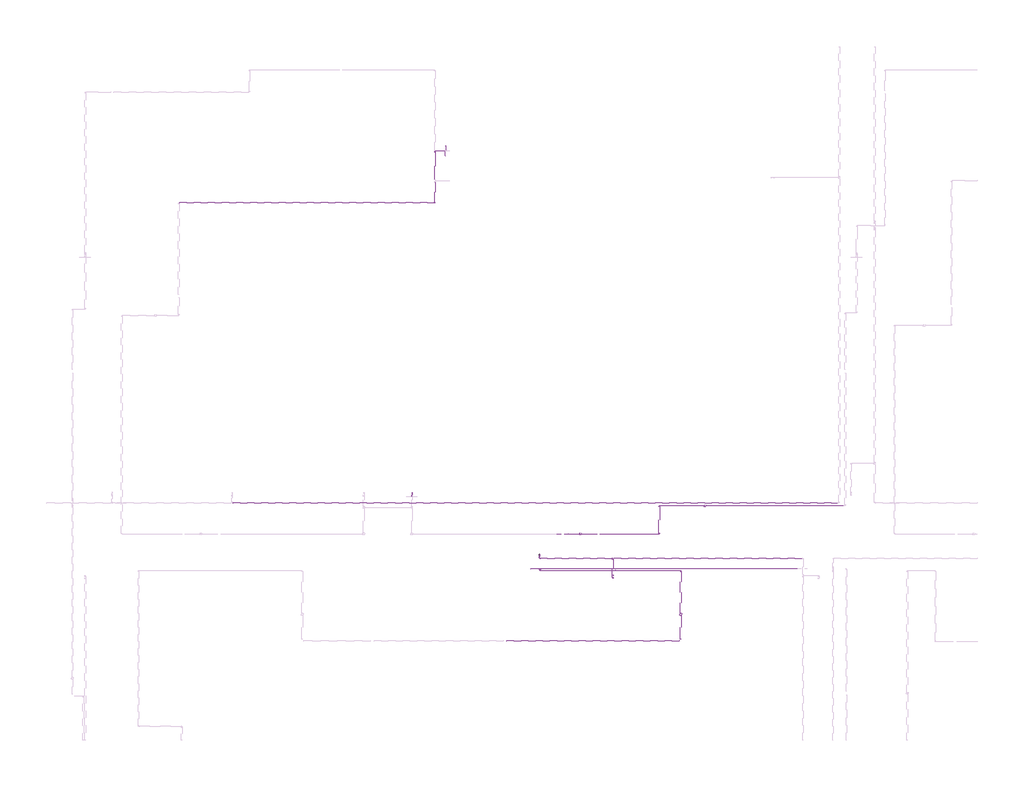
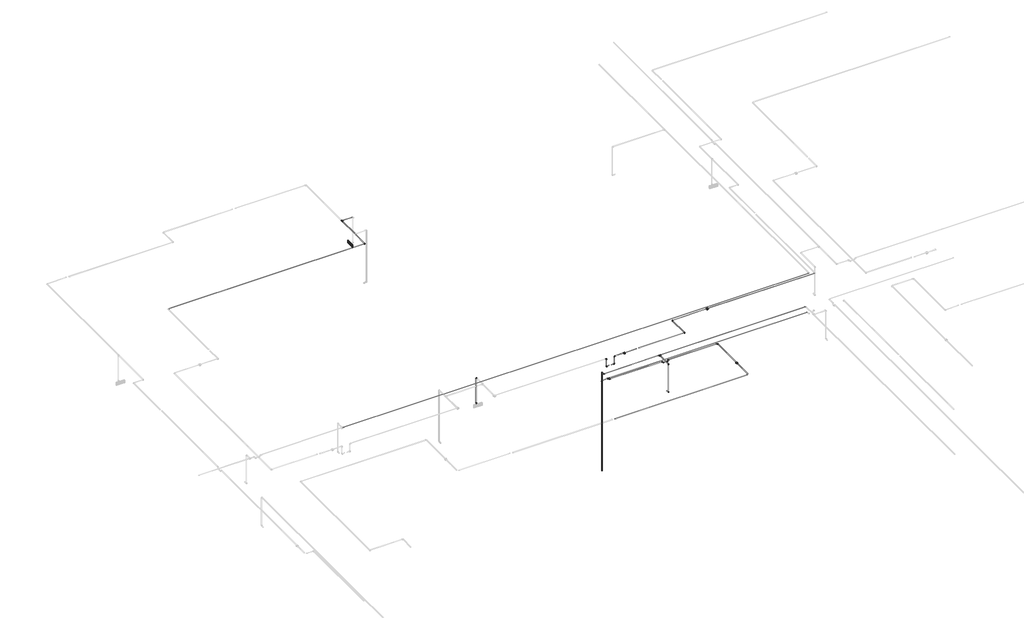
# One storey, part 6 of 13: 35 cable carrier segments, 23 cable carrier fittings, 4 alarms.
"""IFC4 building model written with IfcOpenShell, lengths in millimetres."""

from ifc_helpers import new_model, si_unit, point, frame, frame_2d, origin, place, context, project, spatial, circle_curve, trimmed, segment, composite_curve, outline, extrude, transform, mapped, element, save
from ifc_brep_helpers import plane_surface, cylinder_surface, advanced_brep
from components import alarm_4b7e8fd8, alarm_a2247946, cable_carrier_fitting_69f1a801, cable_carrier_fitting_8122f9af, cable_carrier_fitting_8fd13dfc

model = new_model("IFC4")

# Units and contexts
model_context = context("Model", 3, world=origin())
ifc_project = project(units=[si_unit("LENGTHUNIT", "METRE", prefix="MILLI")], contexts=[model_context])

# Site, building, storey
site = spatial("IfcSite", under=ifc_project)
building = spatial("IfcBuilding", under=site)
storey = spatial("IfcBuildingStorey", under=building, Name="2 этаж", Elevation=3500.0)

# Alarms
placement = place(None, origin())
alarm_shape = alarm_4b7e8fd8(model_context)
element("IfcAlarm", 1, ObjectType="RBZ_Оповещатель_Световой_Рубеж_ОПОП1-R3(грань) : ОПОП 1-R3 \"Выход\"", at=placement, inside=storey, context=model_context, shape_type="MappedRepresentation", body=[
    mapped(alarm_shape, transform((-25412.3240021, 15917.1370105, 6000.0), x_axis=(0.0, -1.0, 0.0), y_axis=(0.0, 0.0, 1.0), z_axis=(-1.0, 0.0, 0.0))),
])
alarm_2_shape = alarm_a2247946(model_context)
element("IfcAlarm", 2, ObjectType="RBZ_ИзоляторШлейфа_Рубеж_ИЗ-1_прот.R3(плоскость) : ИЗ-1 прот.R3", at=placement, inside=storey, context=model_context, shape_type="MappedRepresentation", body=[
    mapped(alarm_2_shape, transform((-18827.3240021, 2912.1370105, 6995.4), x_axis=(1.0, 0.0, 0.0), y_axis=(0.0, 1.0, 0.0), z_axis=(0.0, 0.0, 1.0))),
])
element("IfcAlarm", 3, ObjectType="RBZ_ИзоляторШлейфа_Рубеж_ИЗ-1_прот.R3(плоскость) : ИЗ-1 прот.R3", at=placement, inside=storey, context=model_context, shape_type="MappedRepresentation", body=[
    mapped(alarm_2_shape, transform((-21639.8240021, 5164.6370105, 6995.4), x_axis=(1.0, 0.0, 0.0), y_axis=(0.0, 1.0, 0.0), z_axis=(0.0, 0.0, 1.0))),
])
element("IfcAlarm", 4, ObjectType="RBZ_ИзоляторШлейфа_Рубеж_ИЗ-1_прот.R3(плоскость) : ИЗ-1 прот.R3", at=placement, inside=storey, context=model_context, shape_type="MappedRepresentation", body=[
    mapped(alarm_2_shape, transform((-18147.3240021, 5957.1532203, 6995.4), x_axis=(1.0, 0.0, 0.0), y_axis=(0.0, 1.0, 0.0), z_axis=(0.0, 0.0, 1.0))),
])

# Cable carrier fittings
cable_carrier_fitting_shape = cable_carrier_fitting_69f1a801(model_context)
element("IfcCableCarrierFitting", 5, ObjectType="ADSK_Поворот_Минимальный размер : Неспецифицируемый", at=placement, inside=storey, context=model_context, shape_type="MappedRepresentation", body=[
    mapped(cable_carrier_fitting_shape, transform((-25722.3240021, 14465.9311629, 6986.95), x_axis=(1.0, 0.0, 0.0), y_axis=(0.0, 1.0, 0.0), z_axis=(0.0, 0.0, 1.0))),
])
element("IfcCableCarrierFitting", 6, ObjectType="ADSK_Поворот_Минимальный размер : Неспецифицируемый", at=placement, inside=storey, context=model_context, shape_type="MappedRepresentation", body=[
    mapped(cable_carrier_fitting_shape, transform((-22286.0238077, 5164.6370105, 6690.0), x_axis=(-1.0, 0.0, 0.0), y_axis=(0.0, 0.0, 1.0), z_axis=(0.0, 1.0, 0.0))),
])
element("IfcCableCarrierFitting", 7, ObjectType="ADSK_Поворот_Минимальный размер : Неспецифицируемый", at=placement, inside=storey, context=model_context, shape_type="MappedRepresentation", body=[
    mapped(cable_carrier_fitting_shape, transform((-22286.0238077, 5164.6370105, 6986.95), x_axis=(0.0, 0.0, 1.0), y_axis=(-1.0, 0.0, 0.0), z_axis=(0.0, -1.0, 0.0))),
])
element("IfcCableCarrierFitting", 8, ObjectType="ADSK_Поворот_Минимальный размер : Неспецифицируемый", at=placement, inside=storey, context=model_context, shape_type="MappedRepresentation", body=[
    mapped(cable_carrier_fitting_shape, transform((-21998.6241965, 5164.6370105, 6690.0), x_axis=(1.0, 0.0, 0.0), y_axis=(0.0, 0.0, 1.0), z_axis=(0.0, -1.0, 0.0))),
])
element("IfcCableCarrierFitting", 9, ObjectType="ADSK_Поворот_Минимальный размер : Неспецифицируемый", at=placement, inside=storey, context=model_context, shape_type="MappedRepresentation", body=[
    mapped(cable_carrier_fitting_shape, transform((-21998.6241965, 5164.6370105, 6984.65), x_axis=(0.0, 0.0, 1.0), y_axis=(1.0, 0.0, 0.0), z_axis=(0.0, 1.0, 0.0))),
])
element("IfcCableCarrierFitting", 10, ObjectType="ADSK_Поворот_Минимальный размер : Неспецифицируемый", at=placement, inside=storey, context=model_context, shape_type="MappedRepresentation", body=[
    mapped(cable_carrier_fitting_shape, transform((-19428.4385967, 5164.6370105, 6984.65), x_axis=(1.0, 0.0, 0.0), y_axis=(0.0, 1.0, 0.0), z_axis=(0.0, 0.0, 1.0))),
])
element("IfcCableCarrierFitting", 11, ObjectType="ADSK_Поворот_Минимальный размер : Неспецифицируемый", at=placement, inside=storey, context=model_context, shape_type="MappedRepresentation", body=[
    mapped(cable_carrier_fitting_shape, transform((-19428.4385967, 5957.1532203, 6984.65), x_axis=(-1.0, 0.0, 0.0), y_axis=(0.0, -1.0, 0.0), z_axis=(0.0, 0.0, 1.0))),
])
element("IfcCableCarrierFitting", 12, ObjectType="ADSK_Поворот_Минимальный размер : Неспецифицируемый", at=placement, inside=storey, context=model_context, shape_type="MappedRepresentation", body=[
    mapped(cable_carrier_fitting_shape, transform((-20732.2740021, 3927.4372049, 5897.4861504), x_axis=(0.0, -1.0, 0.0), y_axis=(0.0, 0.0, 1.0), z_axis=(-1.0, 0.0, 0.0))),
])
element("IfcCableCarrierFitting", 13, ObjectType="ADSK_Поворот_Минимальный размер : Неспецифицируемый", at=placement, inside=storey, context=model_context, shape_type="MappedRepresentation", body=[
    mapped(cable_carrier_fitting_shape, transform((-20732.2740021, 3927.4372049, 6990.0), x_axis=(0.0, 0.0, 1.0), y_axis=(0.0, 1.0, 0.0), z_axis=(-1.0, 0.0, 0.0))),
])
element("IfcCableCarrierFitting", 14, ObjectType="ADSK_Поворот_Минимальный размер : Неспецифицируемый", at=placement, inside=storey, context=model_context, shape_type="MappedRepresentation", body=[
    mapped(cable_carrier_fitting_shape, transform((-26367.3240021, 6321.8368161, 6000.0), x_axis=(0.0, 1.0, 0.0), y_axis=(0.0, 0.0, 1.0), z_axis=(1.0, 0.0, 0.0))),
])
element("IfcCableCarrierFitting", 15, ObjectType="ADSK_Поворот_Минимальный размер : Неспецифицируемый", at=placement, inside=storey, context=model_context, shape_type="MappedRepresentation", body=[
    mapped(cable_carrier_fitting_shape, transform((-26367.3240021, 6321.8368161, 6986.95), x_axis=(0.0, 0.0, 1.0), y_axis=(0.0, -1.0, 0.0), z_axis=(1.0, 0.0, 0.0))),
])
element("IfcCableCarrierFitting", 16, ObjectType="ADSK_Поворот_Минимальный размер : Неспецифицируемый", at=placement, inside=storey, context=model_context, shape_type="MappedRepresentation", body=[
    mapped(cable_carrier_fitting_shape, transform((-18827.3240021, 4136.8294115, 6984.65), x_axis=(0.0, 1.0, 0.0), y_axis=(-1.0, 0.0, 0.0), z_axis=(0.0, 0.0, 1.0))),
])
element("IfcCableCarrierFitting", 17, ObjectType="ADSK_Поворот_Минимальный размер : Неспецифицируемый", at=placement, inside=storey, context=model_context, shape_type="MappedRepresentation", body=[
    mapped(cable_carrier_fitting_shape, transform((-22768.8462734, 4136.8294115, 6990.0), x_axis=(0.0, -1.0, 0.0), y_axis=(1.0, 0.0, 0.0), z_axis=(0.0, 0.0, 1.0))),
])
element("IfcCableCarrierFitting", 18, ObjectType="ADSK_Поворот_Минимальный размер : Неспецифицируемый", at=placement, inside=storey, context=model_context, shape_type="MappedRepresentation", body=[
    mapped(cable_carrier_fitting_shape, transform((-23017.3240021, 4191.0020779, 6990.0), x_axis=(-1.0, 0.0, 0.0), y_axis=(0.0, 0.0, -1.0), z_axis=(0.0, -1.0, 0.0))),
])
element("IfcCableCarrierFitting", 19, ObjectType="ADSK_Поворот_Минимальный размер : Неспецифицируемый", at=placement, inside=storey, context=model_context, shape_type="MappedRepresentation", body=[
    mapped(cable_carrier_fitting_shape, transform((-22786.859707, 4582.0798551, 6990.0), x_axis=(0.0, 0.0, 1.0), y_axis=(0.0, -1.0, 0.0), z_axis=(1.0, 0.0, 0.0))),
])
element("IfcCableCarrierFitting", 20, ObjectType="ADSK_Поворот_Минимальный размер : Неспецифицируемый", at=placement, inside=storey, context=model_context, shape_type="MappedRepresentation", body=[
    mapped(cable_carrier_fitting_shape, transform((-22786.859707, 4481.6519004, 6990.0), x_axis=(0.0, -1.0, 0.0), y_axis=(1.0, 0.0, 0.0), z_axis=(0.0, 0.0, 1.0))),
])
cable_carrier_fitting_2_shape = cable_carrier_fitting_8122f9af(model_context)
element("IfcCableCarrierFitting", 21, ObjectType="ADSK_Поворот_Минимальный размер : Неспецифицируемый", at=placement, inside=storey, context=model_context, shape_type="MappedRepresentation", body=[
    mapped(cable_carrier_fitting_2_shape, transform((-20665.7017309, 4136.8294115, 6940.0), x_axis=(-0.7071067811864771, 0.0, -0.7071067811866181), y_axis=(-0.7071067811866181, 0.0, 0.7071067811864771), z_axis=(0.0, 1.0, 0.0))),
])
element("IfcCableCarrierFitting", 22, ObjectType="ADSK_Поворот_Минимальный размер : Неспецифицируемый", at=placement, inside=storey, context=model_context, shape_type="MappedRepresentation", body=[
    mapped(cable_carrier_fitting_2_shape, transform((-20798.8462734, 4136.8294115, 6940.0), x_axis=(-1.0, 0.0, 0.0), y_axis=(0.0, 0.0, 1.0), z_axis=(0.0, 1.0, 0.0))),
])
element("IfcCableCarrierFitting", 23, ObjectType="ADSK_Поворот_Минимальный размер : Неспецифицируемый", at=placement, inside=storey, context=model_context, shape_type="MappedRepresentation", body=[
    mapped(cable_carrier_fitting_2_shape, transform((-20848.8462734, 4136.8294115, 6990.0), x_axis=(-0.7071067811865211, 0.0, 0.707106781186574), y_axis=(-0.707106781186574, 0.0, -0.7071067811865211), z_axis=(0.0, -1.0, 0.0))),
])
element("IfcCableCarrierFitting", 24, ObjectType="ADSK_Поворот_Минимальный размер : Неспецифицируемый", at=placement, inside=storey, context=model_context, shape_type="MappedRepresentation", body=[
    mapped(cable_carrier_fitting_2_shape, transform((-20621.0517309, 4136.8294115, 6984.65), x_axis=(0.7071067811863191, 0.0, 0.707106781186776), y_axis=(0.707106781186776, 0.0, -0.7071067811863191), z_axis=(0.0, 1.0, 0.0))),
])
cable_carrier_fitting_3_shape = cable_carrier_fitting_8fd13dfc(model_context)
element("IfcCableCarrierFitting", 25, ObjectType="ADSK_Тройник : ПВХ", at=placement, inside=storey, context=model_context, shape_type="MappedRepresentation", body=[
    mapped(cable_carrier_fitting_3_shape, transform((-25722.3240021, 15917.1370105, 6986.95), x_axis=(0.0, 1.0, 0.0), y_axis=(-1.0, 0.0, 0.0), z_axis=(0.0, 0.0, 1.0))),
])
element("IfcCableCarrierFitting", 26, ObjectType="ADSK_Тройник : ПВХ", at=placement, inside=storey, context=model_context, shape_type="MappedRepresentation", body=[
    mapped(cable_carrier_fitting_3_shape, transform((-20732.2740021, 4481.6519004, 6990.0), x_axis=(1.0, 0.0, 0.0), y_axis=(0.0, 1.0, 0.0), z_axis=(0.0, 0.0, 1.0))),
])
element("IfcCableCarrierFitting", 27, ObjectType="ADSK_Тройник : ПВХ", at=placement, inside=storey, context=model_context, shape_type="MappedRepresentation", body=[
    mapped(cable_carrier_fitting_3_shape, transform((-22768.8462734, 4191.0020779, 6990.0), x_axis=(1.0, 0.0, 0.0), y_axis=(0.0, 1.0, 0.0), z_axis=(0.0, 0.0, 1.0))),
])

# Cable carrier segments
element("IfcCableCarrierSegment", 28, ObjectType="Гофрированная труба", at=placement, inside=storey, context=model_context, shape_type="SweptSolid", body=[
    extrude(outline(composite_curve([segment(trimmed(circle_curve(frame_2d((0.0, 10.0)), 10.0), [point((-10.0, 10.0))], [point((0.0, 20.0000001))], False, "CARTESIAN"), True, "CONTINUOUS"), segment(trimmed(circle_curve(frame_2d((0.0, 10.0)), 10.0), [point((0.0, 20.0000001))], [point((10.0, 10.0))], False, "CARTESIAN"), True, "CONTINUOUS"), segment(trimmed(circle_curve(frame_2d((0.0, 10.0)), 10.0), [point((10.0, 10.0))], [point((0.0, 0.0))], False, "CARTESIAN"), True, "CONTINUOUS"), segment(trimmed(circle_curve(frame_2d((0.0, 10.0)), 10.0), [point((0.0, 0.0))], [point((-10.0, 10.0))], False, "CARTESIAN"), True, "CONTINUOUS")], self_intersect=False)), frame((-18873.828762, 2164.6370105, 6974.6500011), z_axis=(-0.9999998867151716, 0.0, 0.0004759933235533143), x_axis=(0.0, -1.0, 0.0)), (0.0, 0.0, 1.0), 4832.0005474),
])
element("IfcCableCarrierSegment", 29, ObjectType="Гофрированная труба", at=placement, inside=storey, context=model_context, shape_type="SweptSolid", body=[
    extrude(outline(composite_curve([segment(trimmed(circle_curve(frame_2d((6984.65, -18827.3240021)), 10.0), [point((6984.65, -18837.3240021))], [point((6974.65, -18827.3240021))], False, "CARTESIAN"), True, "CONTINUOUS"), segment(trimmed(circle_curve(frame_2d((6984.65, -18827.3240021)), 10.0), [point((6974.65, -18827.3240021))], [point((6984.65, -18817.3240021))], False, "CARTESIAN"), True, "CONTINUOUS"), segment(trimmed(circle_curve(frame_2d((6984.65, -18827.3240021)), 10.0), [point((6984.65, -18817.3240021))], [point((6994.65, -18827.3240021))], False, "CARTESIAN"), True, "CONTINUOUS"), segment(trimmed(circle_curve(frame_2d((6984.65, -18827.3240021)), 10.0), [point((6994.65, -18827.3240021))], [point((6984.65, -18837.3240021))], False, "CARTESIAN"), True, "CONTINUOUS")], self_intersect=False)), frame((0.0, 2211.1370105, 0.0), z_axis=(0.0, 1.0, 0.0), x_axis=(0.0, 0.0, 1.0)), (0.0, 0.0, 1.0), 675.0),
])
element("IfcCableCarrierSegment", 30, ObjectType="Гофрированная труба", at=placement, inside=storey, context=model_context, shape_type="SweptSolid", body=[
    extrude(outline(composite_curve([segment(trimmed(circle_curve(frame_2d((6984.65, -18827.3240021)), 10.0), [point((6984.65, -18817.3240021))], [point((6994.65, -18827.3240021))], False, "CARTESIAN"), True, "CONTINUOUS"), segment(trimmed(circle_curve(frame_2d((6984.65, -18827.3240021)), 10.0), [point((6994.65, -18827.3240021))], [point((6984.65, -18837.3240021))], False, "CARTESIAN"), True, "CONTINUOUS"), segment(trimmed(circle_curve(frame_2d((6984.65, -18827.3240021)), 10.0), [point((6984.65, -18837.3240021))], [point((6974.65, -18827.3240021))], False, "CARTESIAN"), True, "CONTINUOUS"), segment(trimmed(circle_curve(frame_2d((6984.65, -18827.3240021)), 10.0), [point((6974.65, -18827.3240021))], [point((6984.65, -18817.3240021))], False, "CARTESIAN"), True, "CONTINUOUS")], self_intersect=False)), frame((0.0, 2938.1370105, 0.0), z_axis=(0.0, 1.0, 0.0), x_axis=(0.0, 0.0, 1.0)), (0.0, 0.0, 1.0), 1177.692401),
])
element("IfcCableCarrierSegment", 31, ObjectType="Гофрированная труба", at=placement, inside=storey, context=model_context, shape_type="SweptSolid", body=[
    extrude(outline(composite_curve([segment(trimmed(circle_curve(frame_2d((4191.0020779, 6990.0)), 10.0), [point((4201.0020779, 6990.0))], [point((4191.0020779, 6980.0))], False, "CARTESIAN"), True, "CONTINUOUS"), segment(trimmed(circle_curve(frame_2d((4191.0020779, 6990.0)), 10.0), [point((4191.0020779, 6980.0))], [point((4181.0020779, 6990.0))], False, "CARTESIAN"), True, "CONTINUOUS"), segment(trimmed(circle_curve(frame_2d((4191.0020779, 6990.0)), 10.0), [point((4181.0020779, 6990.0))], [point((4191.0020779, 7000.0))], False, "CARTESIAN"), True, "CONTINUOUS"), segment(trimmed(circle_curve(frame_2d((4191.0020779, 6990.0)), 10.0), [point((4191.0020779, 7000.0))], [point((4201.0020779, 6990.0))], False, "CARTESIAN"), True, "CONTINUOUS")], self_intersect=False)), frame((-22996.3240021, 0.0, 0.0), z_axis=(1.0, 0.0, 0.0), x_axis=(0.0, 1.0, 0.0)), (0.0, 0.0, 1.0), 197.4777288),
])
element("IfcCableCarrierSegment", 32, ObjectType="Гофрированная труба", at=placement, inside=storey, context=model_context, shape_type="SweptSolid", body=[
    extrude(outline(composite_curve([segment(trimmed(circle_curve(frame_2d((6986.95, -25722.3240021)), 10.0), [point((6986.95, -25712.3240021))], [point((6996.95, -25722.3240021))], False, "CARTESIAN"), True, "CONTINUOUS"), segment(trimmed(circle_curve(frame_2d((6986.95, -25722.3240021)), 10.0), [point((6996.95, -25722.3240021))], [point((6986.95, -25732.3240021))], False, "CARTESIAN"), True, "CONTINUOUS"), segment(trimmed(circle_curve(frame_2d((6986.95, -25722.3240021)), 10.0), [point((6986.95, -25732.3240021))], [point((6976.95, -25722.3240021))], False, "CARTESIAN"), True, "CONTINUOUS"), segment(trimmed(circle_curve(frame_2d((6986.95, -25722.3240021)), 10.0), [point((6976.95, -25722.3240021))], [point((6986.95, -25712.3240021))], False, "CARTESIAN"), True, "CONTINUOUS")], self_intersect=False)), frame((0.0, 15107.1370105, 0.0), z_axis=(0.0, 1.0, 0.0), x_axis=(0.0, 0.0, 1.0)), (0.0, 0.0, 1.0), 780.0),
])
element("IfcCableCarrierSegment", 33, ObjectType="Гофрированная труба", at=placement, inside=storey, context=model_context, shape_type="SweptSolid", body=[
    extrude(outline(composite_curve([segment(trimmed(circle_curve(frame_2d((14465.9311629, 6986.95)), 10.0), [point((14455.9311629, 6986.95))], [point((14465.9311629, 6996.95))], False, "CARTESIAN"), True, "CONTINUOUS"), segment(trimmed(circle_curve(frame_2d((14465.9311629, 6986.95)), 10.0), [point((14465.9311629, 6996.95))], [point((14475.9311629, 6986.95))], False, "CARTESIAN"), True, "CONTINUOUS"), segment(trimmed(circle_curve(frame_2d((14465.9311629, 6986.95)), 10.0), [point((14475.9311629, 6986.95))], [point((14465.9311629, 6976.95))], False, "CARTESIAN"), True, "CONTINUOUS"), segment(trimmed(circle_curve(frame_2d((14465.9311629, 6986.95)), 10.0), [point((14465.9311629, 6976.95))], [point((14455.9311629, 6986.95))], False, "CARTESIAN"), True, "CONTINUOUS")], self_intersect=False)), frame((-32886.3240021, 0.0, 0.0), z_axis=(1.0, 0.0, 0.0), x_axis=(0.0, 1.0, 0.0)), (0.0, 0.0, 1.0), 7143.0),
])
element("IfcCableCarrierSegment", 34, ObjectType="Гофрированная труба", at=placement, inside=storey, context=model_context, shape_type="SweptSolid", body=[
    extrude(outline(composite_curve([segment(trimmed(circle_curve(frame_2d((5957.1532203, 6984.65)), 10.0), [point((5967.1532203, 6984.65))], [point((5957.1532203, 6974.65))], False, "CARTESIAN"), True, "CONTINUOUS"), segment(trimmed(circle_curve(frame_2d((5957.1532203, 6984.65)), 10.0), [point((5957.1532203, 6974.65))], [point((5947.1532203, 6984.65))], False, "CARTESIAN"), True, "CONTINUOUS"), segment(trimmed(circle_curve(frame_2d((5957.1532203, 6984.65)), 10.0), [point((5947.1532203, 6984.65))], [point((5957.1532203, 6994.65))], False, "CARTESIAN"), True, "CONTINUOUS"), segment(trimmed(circle_curve(frame_2d((5957.1532203, 6984.65)), 10.0), [point((5957.1532203, 6994.65))], [point((5967.1532203, 6984.65))], False, "CARTESIAN"), True, "CONTINUOUS")], self_intersect=False)), frame((-18121.3240021, 0.0, 0.0), z_axis=(1.0, 0.0, 0.0), x_axis=(0.0, 1.0, 0.0)), (0.0, 0.0, 1.0), 3888.0),
])
element("IfcCableCarrierSegment", 35, ObjectType="Гофрированная труба", at=placement, inside=storey, context=model_context, shape_type="SweptSolid", body=[
    extrude(outline(composite_curve([segment(trimmed(circle_curve(frame_2d((5164.6370105, 6690.0)), 10.0), [point((5174.6370105, 6690.0))], [point((5164.6370105, 6680.0))], False, "CARTESIAN"), True, "CONTINUOUS"), segment(trimmed(circle_curve(frame_2d((5164.6370105, 6690.0)), 10.0), [point((5164.6370105, 6680.0))], [point((5154.6370105, 6690.0))], False, "CARTESIAN"), True, "CONTINUOUS"), segment(trimmed(circle_curve(frame_2d((5164.6370105, 6690.0)), 10.0), [point((5154.6370105, 6690.0))], [point((5164.6370105, 6700.0))], False, "CARTESIAN"), True, "CONTINUOUS"), segment(trimmed(circle_curve(frame_2d((5164.6370105, 6690.0)), 10.0), [point((5164.6370105, 6700.0))], [point((5174.6370105, 6690.0))], False, "CARTESIAN"), True, "CONTINUOUS")], self_intersect=False)), frame((-22265.0238077, 0.0, 0.0), z_axis=(1.0, 0.0, 0.0), x_axis=(0.0, 1.0, 0.0)), (0.0, 0.0, 1.0), 76.1998056),
])
element("IfcCableCarrierSegment", 36, ObjectType="Гофрированная труба", at=placement, inside=storey, context=model_context, shape_type="SweptSolid", body=[
    extrude(outline(composite_curve([segment(trimmed(circle_curve(frame_2d((-22286.0238077, 5164.6370105)), 10.0), [point((-22296.0238077, 5164.6370105))], [point((-22286.0238077, 5174.6370105))], False, "CARTESIAN"), True, "CONTINUOUS"), segment(trimmed(circle_curve(frame_2d((-22286.0238077, 5164.6370105)), 10.0), [point((-22286.0238077, 5174.6370105))], [point((-22276.0238077, 5164.6370105))], False, "CARTESIAN"), True, "CONTINUOUS"), segment(trimmed(circle_curve(frame_2d((-22286.0238077, 5164.6370105)), 10.0), [point((-22276.0238077, 5164.6370105))], [point((-22286.0238077, 5154.6370105))], False, "CARTESIAN"), True, "CONTINUOUS"), segment(trimmed(circle_curve(frame_2d((-22286.0238077, 5164.6370105)), 10.0), [point((-22286.0238077, 5154.6370105))], [point((-22296.0238077, 5164.6370105))], False, "CARTESIAN"), True, "CONTINUOUS")], self_intersect=False)), frame((0.0, 0.0, 6711.0), z_axis=(0.0, 0.0, 1.0), x_axis=(1.0, 0.0, 0.0)), (0.0, 0.0, 1.0), 254.95),
])
element("IfcCableCarrierSegment", 37, ObjectType="Гофрированная труба", at=placement, inside=storey, context=model_context, shape_type="SweptSolid", body=[
    extrude(outline(composite_curve([segment(trimmed(circle_curve(frame_2d((5164.6370105, 6984.65)), 10.0), [point((5174.6370105, 6984.65))], [point((5164.6370105, 6974.65))], False, "CARTESIAN"), True, "CONTINUOUS"), segment(trimmed(circle_curve(frame_2d((5164.6370105, 6984.65)), 10.0), [point((5164.6370105, 6974.65))], [point((5154.6370105, 6984.65))], False, "CARTESIAN"), True, "CONTINUOUS"), segment(trimmed(circle_curve(frame_2d((5164.6370105, 6984.65)), 10.0), [point((5154.6370105, 6984.65))], [point((5164.6370105, 6994.65))], False, "CARTESIAN"), True, "CONTINUOUS"), segment(trimmed(circle_curve(frame_2d((5164.6370105, 6984.65)), 10.0), [point((5164.6370105, 6994.65))], [point((5174.6370105, 6984.65))], False, "CARTESIAN"), True, "CONTINUOUS")], self_intersect=False)), frame((-21977.6241965, 0.0, 0.0), z_axis=(1.0, 0.0, 0.0), x_axis=(0.0, 1.0, 0.0)), (0.0, 0.0, 1.0), 311.8001944),
])
element("IfcCableCarrierSegment", 38, ObjectType="Гофрированная труба", at=placement, inside=storey, context=model_context, shape_type="SweptSolid", body=[
    extrude(outline(composite_curve([segment(trimmed(circle_curve(frame_2d((5164.6370105, 6690.0)), 10.0), [point((5154.6370105, 6690.0))], [point((5164.6370105, 6700.0))], False, "CARTESIAN"), True, "CONTINUOUS"), segment(trimmed(circle_curve(frame_2d((5164.6370105, 6690.0)), 10.0), [point((5164.6370105, 6700.0))], [point((5174.6370105, 6690.0))], False, "CARTESIAN"), True, "CONTINUOUS"), segment(trimmed(circle_curve(frame_2d((5164.6370105, 6690.0)), 10.0), [point((5174.6370105, 6690.0))], [point((5164.6370105, 6680.0))], False, "CARTESIAN"), True, "CONTINUOUS"), segment(trimmed(circle_curve(frame_2d((5164.6370105, 6690.0)), 10.0), [point((5164.6370105, 6680.0))], [point((5154.6370105, 6690.0))], False, "CARTESIAN"), True, "CONTINUOUS")], self_intersect=False)), frame((-22095.8240021, 0.0, 0.0), z_axis=(1.0, 0.0, 0.0), x_axis=(0.0, 1.0, 0.0)), (0.0, 0.0, 1.0), 76.1998056),
])
element("IfcCableCarrierSegment", 39, ObjectType="Гофрированная труба", at=placement, inside=storey, context=model_context, shape_type="SweptSolid", body=[
    extrude(outline(composite_curve([segment(trimmed(circle_curve(frame_2d((-21998.6241965, 5164.6370105)), 10.0), [point((-22008.6241965, 5164.6370105))], [point((-21998.6241965, 5174.6370105))], False, "CARTESIAN"), True, "CONTINUOUS"), segment(trimmed(circle_curve(frame_2d((-21998.6241965, 5164.6370105)), 10.0), [point((-21998.6241965, 5174.6370105))], [point((-21988.6241965, 5164.6370105))], False, "CARTESIAN"), True, "CONTINUOUS"), segment(trimmed(circle_curve(frame_2d((-21998.6241965, 5164.6370105)), 10.0), [point((-21988.6241965, 5164.6370105))], [point((-21998.6241965, 5154.6370105))], False, "CARTESIAN"), True, "CONTINUOUS"), segment(trimmed(circle_curve(frame_2d((-21998.6241965, 5164.6370105)), 10.0), [point((-21998.6241965, 5154.6370105))], [point((-22008.6241965, 5164.6370105))], False, "CARTESIAN"), True, "CONTINUOUS")], self_intersect=False)), frame((0.0, 0.0, 6711.0), z_axis=(0.0, 0.0, 1.0), x_axis=(1.0, 0.0, 0.0)), (0.0, 0.0, 1.0), 252.65),
])
element("IfcCableCarrierSegment", 40, ObjectType="Гофрированная труба", at=placement, inside=storey, context=model_context, shape_type="SweptSolid", body=[
    extrude(outline(composite_curve([segment(trimmed(circle_curve(frame_2d((5164.6370105, 6984.65)), 10.0), [point((5174.6370105, 6984.65))], [point((5164.6370105, 6974.65))], False, "CARTESIAN"), True, "CONTINUOUS"), segment(trimmed(circle_curve(frame_2d((5164.6370105, 6984.65)), 10.0), [point((5164.6370105, 6974.65))], [point((5154.6370105, 6984.65))], False, "CARTESIAN"), True, "CONTINUOUS"), segment(trimmed(circle_curve(frame_2d((5164.6370105, 6984.65)), 10.0), [point((5154.6370105, 6984.65))], [point((5164.6370105, 6994.65))], False, "CARTESIAN"), True, "CONTINUOUS"), segment(trimmed(circle_curve(frame_2d((5164.6370105, 6984.65)), 10.0), [point((5164.6370105, 6994.65))], [point((5174.6370105, 6984.65))], False, "CARTESIAN"), True, "CONTINUOUS")], self_intersect=False)), frame((-21613.8240021, 0.0, 0.0), z_axis=(1.0, 0.0, 0.0), x_axis=(0.0, 1.0, 0.0)), (0.0, 0.0, 1.0), 425.8437312),
])
element("IfcCableCarrierSegment", 41, ObjectType="Гофрированная труба", at=placement, inside=storey, context=model_context, shape_type="SweptSolid", body=[
    extrude(outline(composite_curve([segment(trimmed(circle_curve(frame_2d((5164.6370105, 6984.65)), 10.0), [point((5174.6370105, 6984.65))], [point((5164.6370105, 6974.65))], False, "CARTESIAN"), True, "CONTINUOUS"), segment(trimmed(circle_curve(frame_2d((5164.6370105, 6984.65)), 10.0), [point((5164.6370105, 6974.65))], [point((5154.6370105, 6984.65))], False, "CARTESIAN"), True, "CONTINUOUS"), segment(trimmed(circle_curve(frame_2d((5164.6370105, 6984.65)), 10.0), [point((5154.6370105, 6984.65))], [point((5164.6370105, 6994.65))], False, "CARTESIAN"), True, "CONTINUOUS"), segment(trimmed(circle_curve(frame_2d((5164.6370105, 6984.65)), 10.0), [point((5164.6370105, 6994.65))], [point((5174.6370105, 6984.65))], False, "CARTESIAN"), True, "CONTINUOUS")], self_intersect=False)), frame((-21094.9802709, 0.0, 0.0), z_axis=(1.0, 0.0, 0.0), x_axis=(0.0, 1.0, 0.0)), (0.0, 0.0, 1.0), 1645.5416742),
])
element("IfcCableCarrierSegment", 42, ObjectType="Гофрированная труба", at=placement, inside=storey, context=model_context, shape_type="SweptSolid", body=[
    extrude(outline(composite_curve([segment(trimmed(circle_curve(frame_2d((6984.65, -19428.4385967)), 10.0), [point((6984.65, -19438.4385967))], [point((6974.65, -19428.4385967))], False, "CARTESIAN"), True, "CONTINUOUS"), segment(trimmed(circle_curve(frame_2d((6984.65, -19428.4385967)), 10.0), [point((6974.65, -19428.4385967))], [point((6984.65, -19418.4385967))], False, "CARTESIAN"), True, "CONTINUOUS"), segment(trimmed(circle_curve(frame_2d((6984.65, -19428.4385967)), 10.0), [point((6984.65, -19418.4385967))], [point((6994.65, -19428.4385967))], False, "CARTESIAN"), True, "CONTINUOUS"), segment(trimmed(circle_curve(frame_2d((6984.65, -19428.4385967)), 10.0), [point((6994.65, -19428.4385967))], [point((6984.65, -19438.4385967))], False, "CARTESIAN"), True, "CONTINUOUS")], self_intersect=False)), frame((0.0, 5185.6370105, 0.0), z_axis=(0.0, 1.0, 0.0), x_axis=(0.0, 0.0, 1.0)), (0.0, 0.0, 1.0), 750.5162098),
])
element("IfcCableCarrierSegment", 43, ObjectType="Гофрированная труба", at=placement, inside=storey, context=model_context, shape_type="SweptSolid", body=[
    extrude(outline(composite_curve([segment(trimmed(circle_curve(frame_2d((5957.1532203, 6984.65)), 10.0), [point((5947.1532203, 6984.65))], [point((5957.1532203, 6994.65))], False, "CARTESIAN"), True, "CONTINUOUS"), segment(trimmed(circle_curve(frame_2d((5957.1532203, 6984.65)), 10.0), [point((5957.1532203, 6994.65))], [point((5967.1532203, 6984.65))], False, "CARTESIAN"), True, "CONTINUOUS"), segment(trimmed(circle_curve(frame_2d((5957.1532203, 6984.65)), 10.0), [point((5967.1532203, 6984.65))], [point((5957.1532203, 6974.65))], False, "CARTESIAN"), True, "CONTINUOUS"), segment(trimmed(circle_curve(frame_2d((5957.1532203, 6984.65)), 10.0), [point((5957.1532203, 6974.65))], [point((5947.1532203, 6984.65))], False, "CARTESIAN"), True, "CONTINUOUS")], self_intersect=False)), frame((-19407.4385967, 0.0, 0.0), z_axis=(1.0, 0.0, 0.0), x_axis=(0.0, 1.0, 0.0)), (0.0, 0.0, 1.0), 1234.1145946),
])
element("IfcCableCarrierSegment", 44, ObjectType="Гофрированная труба", at=placement, inside=storey, context=model_context, shape_type="SweptSolid", body=[
    extrude(outline(composite_curve([segment(trimmed(circle_curve(frame_2d((4136.8294115, 6940.0)), 10.0), [point((4146.8294115, 6940.0))], [point((4136.8294115, 6930.0))], False, "CARTESIAN"), True, "CONTINUOUS"), segment(trimmed(circle_curve(frame_2d((4136.8294115, 6940.0)), 10.0), [point((4136.8294115, 6930.0))], [point((4126.8294115, 6940.0))], False, "CARTESIAN"), True, "CONTINUOUS"), segment(trimmed(circle_curve(frame_2d((4136.8294115, 6940.0)), 10.0), [point((4126.8294115, 6940.0))], [point((4136.8294115, 6950.0))], False, "CARTESIAN"), True, "CONTINUOUS"), segment(trimmed(circle_curve(frame_2d((4136.8294115, 6940.0)), 10.0), [point((4136.8294115, 6950.0))], [point((4146.8294115, 6940.0))], False, "CARTESIAN"), True, "CONTINUOUS")], self_intersect=False)), frame((-20789.5620021, 0.0, 0.0), z_axis=(1.0, 0.0, 0.0), x_axis=(0.0, 1.0, 0.0)), (0.0, 0.0, 1.0), 114.576),
])
element("IfcCableCarrierSegment", 45, ObjectType="Гофрированная труба", at=placement, inside=storey, context=model_context, shape_type="SweptSolid", body=[
    extrude(outline(composite_curve([segment(trimmed(circle_curve(frame_2d((6037.6221207, 6990.0)), 10.0), [point((6027.6221207, 6990.0))], [point((6037.6221207, 7000.0))], False, "CARTESIAN"), True, "CONTINUOUS"), segment(trimmed(circle_curve(frame_2d((6037.6221207, 6990.0)), 10.0), [point((6037.6221207, 7000.0))], [point((6047.6221207, 6990.0))], False, "CARTESIAN"), True, "CONTINUOUS"), segment(trimmed(circle_curve(frame_2d((6037.6221207, 6990.0)), 10.0), [point((6047.6221207, 6990.0))], [point((6037.6221207, 6980.0))], False, "CARTESIAN"), True, "CONTINUOUS"), segment(trimmed(circle_curve(frame_2d((6037.6221207, 6990.0)), 10.0), [point((6037.6221207, 6980.0))], [point((6027.6221207, 6990.0))], False, "CARTESIAN"), True, "CONTINUOUS")], self_intersect=False)), frame((-31382.3240021, 0.0, 0.0), z_axis=(1.0, 0.0, 0.0), x_axis=(0.0, 1.0, 0.0)), (0.0, 0.0, 1.0), 16979.0),
])
element("IfcCableCarrierSegment", 46, ObjectType="Гофрированная труба", at=placement, inside=storey, context=model_context, shape_type="SweptSolid", body=[
    extrude(outline(composite_curve([segment(trimmed(circle_curve(frame_2d((4481.6519004, 6990.0)), 10.0), [point((4471.6519004, 6990.0))], [point((4481.6519004, 7000.0))], False, "CARTESIAN"), True, "CONTINUOUS"), segment(trimmed(circle_curve(frame_2d((4481.6519004, 6990.0)), 10.0), [point((4481.6519004, 7000.0))], [point((4491.6519004, 6990.0))], False, "CARTESIAN"), True, "CONTINUOUS"), segment(trimmed(circle_curve(frame_2d((4481.6519004, 6990.0)), 10.0), [point((4491.6519004, 6990.0))], [point((4481.6519004, 6980.0))], False, "CARTESIAN"), True, "CONTINUOUS"), segment(trimmed(circle_curve(frame_2d((4481.6519004, 6990.0)), 10.0), [point((4481.6519004, 6980.0))], [point((4471.6519004, 6990.0))], False, "CARTESIAN"), True, "CONTINUOUS")], self_intersect=False)), frame((-22765.859707, 0.0, 0.0), z_axis=(1.0, 0.0, 0.0), x_axis=(0.0, 1.0, 0.0)), (0.0, 0.0, 1.0), 2003.5857049),
])
element("IfcCableCarrierSegment", 47, ObjectType="Гофрированная труба", at=placement, inside=storey, context=model_context, shape_type="SweptSolid", body=[
    extrude(outline(composite_curve([segment(trimmed(circle_curve(frame_2d((6990.0, -20732.2740021)), 10.0), [point((6990.0, -20742.2740021))], [point((6980.0, -20732.2740021))], False, "CARTESIAN"), True, "CONTINUOUS"), segment(trimmed(circle_curve(frame_2d((6990.0, -20732.2740021)), 10.0), [point((6980.0, -20732.2740021))], [point((6990.0, -20722.2740021))], False, "CARTESIAN"), True, "CONTINUOUS"), segment(trimmed(circle_curve(frame_2d((6990.0, -20732.2740021)), 10.0), [point((6990.0, -20722.2740021))], [point((7000.0, -20732.2740021))], False, "CARTESIAN"), True, "CONTINUOUS"), segment(trimmed(circle_curve(frame_2d((6990.0, -20732.2740021)), 10.0), [point((7000.0, -20732.2740021))], [point((6990.0, -20742.2740021))], False, "CARTESIAN"), True, "CONTINUOUS")], self_intersect=False)), frame((0.0, 3948.4372049, 0.0), z_axis=(0.0, 1.0, 0.0), x_axis=(0.0, 0.0, 1.0)), (0.0, 0.0, 1.0), 503.2146954),
])
element("IfcCableCarrierSegment", 48, ObjectType="Гофрированная труба", at=placement, inside=storey, context=model_context, shape_type="SweptSolid", body=[
    extrude(outline(composite_curve([segment(trimmed(circle_curve(frame_2d((5897.4861504, -20732.2740021)), 10.0), [point((5897.4861504, -20742.2740021))], [point((5887.4861504, -20732.2740021))], False, "CARTESIAN"), True, "CONTINUOUS"), segment(trimmed(circle_curve(frame_2d((5897.4861504, -20732.2740021)), 10.0), [point((5887.4861504, -20732.2740021))], [point((5897.4861504, -20722.2740021))], False, "CARTESIAN"), True, "CONTINUOUS"), segment(trimmed(circle_curve(frame_2d((5897.4861504, -20732.2740021)), 10.0), [point((5897.4861504, -20722.2740021))], [point((5907.4861504, -20732.2740021))], False, "CARTESIAN"), True, "CONTINUOUS"), segment(trimmed(circle_curve(frame_2d((5897.4861504, -20732.2740021)), 10.0), [point((5907.4861504, -20732.2740021))], [point((5897.4861504, -20742.2740021))], False, "CARTESIAN"), True, "CONTINUOUS")], self_intersect=False)), frame((0.0, 3948.4372049, 0.0), z_axis=(0.0, 1.0, 0.0), x_axis=(0.0, 0.0, 1.0)), (0.0, 0.0, 1.0), 76.1998056),
])
element("IfcCableCarrierSegment", 49, ObjectType="Гофрированная труба", at=placement, inside=storey, context=model_context, shape_type="SweptSolid", body=[
    extrude(outline(composite_curve([segment(trimmed(circle_curve(frame_2d((-20732.2740021, 3927.4372049)), 10.0), [point((-20742.2740021, 3927.4372049))], [point((-20732.2740021, 3937.4372049))], False, "CARTESIAN"), True, "CONTINUOUS"), segment(trimmed(circle_curve(frame_2d((-20732.2740021, 3927.4372049)), 10.0), [point((-20732.2740021, 3937.4372049))], [point((-20722.2740021, 3927.4372049))], False, "CARTESIAN"), True, "CONTINUOUS"), segment(trimmed(circle_curve(frame_2d((-20732.2740021, 3927.4372049)), 10.0), [point((-20722.2740021, 3927.4372049))], [point((-20732.2740021, 3917.4372049))], False, "CARTESIAN"), True, "CONTINUOUS"), segment(trimmed(circle_curve(frame_2d((-20732.2740021, 3927.4372049)), 10.0), [point((-20732.2740021, 3917.4372049))], [point((-20742.2740021, 3927.4372049))], False, "CARTESIAN"), True, "CONTINUOUS")], self_intersect=False)), frame((0.0, 0.0, 5918.4861504), z_axis=(0.0, 0.0, 1.0), x_axis=(1.0, 0.0, 0.0)), (0.0, 0.0, 1.0), 1050.5138496),
])
element("IfcCableCarrierSegment", 50, ObjectType="Гофрированная труба", at=placement, inside=storey, context=model_context, shape_type="SweptSolid", body=[
    extrude(outline(composite_curve([segment(trimmed(circle_curve(frame_2d((4481.6519004, 6990.0)), 10.0), [point((4491.6519004, 6990.0))], [point((4481.6519004, 6980.0))], False, "CARTESIAN"), True, "CONTINUOUS"), segment(trimmed(circle_curve(frame_2d((4481.6519004, 6990.0)), 10.0), [point((4481.6519004, 6980.0))], [point((4471.6519004, 6990.0))], False, "CARTESIAN"), True, "CONTINUOUS"), segment(trimmed(circle_curve(frame_2d((4481.6519004, 6990.0)), 10.0), [point((4471.6519004, 6990.0))], [point((4481.6519004, 7000.0))], False, "CARTESIAN"), True, "CONTINUOUS"), segment(trimmed(circle_curve(frame_2d((4481.6519004, 6990.0)), 10.0), [point((4481.6519004, 7000.0))], [point((4491.6519004, 6990.0))], False, "CARTESIAN"), True, "CONTINUOUS")], self_intersect=False)), frame((-20702.2740021, 0.0, 0.0), z_axis=(1.0, 0.0, 0.0), x_axis=(0.0, 1.0, 0.0)), (0.0, 0.0, 1.0), 5283.95),
])
element("IfcCableCarrierSegment", 51, ObjectType="Гофрированная труба", at=placement, inside=storey, context=model_context, shape_type="SweptSolid", body=[
    extrude(outline(composite_curve([segment(trimmed(circle_curve(frame_2d((4136.8294115, 6984.65)), 10.0), [point((4146.8294115, 6984.65))], [point((4136.8294115, 6974.65))], False, "CARTESIAN"), True, "CONTINUOUS"), segment(trimmed(circle_curve(frame_2d((4136.8294115, 6984.65)), 10.0), [point((4136.8294115, 6974.65))], [point((4126.8294115, 6984.65))], False, "CARTESIAN"), True, "CONTINUOUS"), segment(trimmed(circle_curve(frame_2d((4136.8294115, 6984.65)), 10.0), [point((4126.8294115, 6984.65))], [point((4136.8294115, 6994.65))], False, "CARTESIAN"), True, "CONTINUOUS"), segment(trimmed(circle_curve(frame_2d((4136.8294115, 6984.65)), 10.0), [point((4136.8294115, 6994.65))], [point((4146.8294115, 6984.65))], False, "CARTESIAN"), True, "CONTINUOUS")], self_intersect=False)), frame((-20611.7674596, 0.0, 0.0), z_axis=(1.0, 0.0, 0.0), x_axis=(0.0, 1.0, 0.0)), (0.0, 0.0, 1.0), 1763.4434575),
])
element("IfcCableCarrierSegment", 52, ObjectType="Гофрированная труба", at=placement, inside=storey, context=model_context, shape_type="SweptSolid", body=[
    extrude(outline(composite_curve([segment(trimmed(circle_curve(frame_2d((0.0, -10.0)), 10.0), [point((0.0, 0.0))], [point((10.0000001, -10.0))], False, "CARTESIAN"), True, "CONTINUOUS"), segment(trimmed(circle_curve(frame_2d((0.0, -10.0)), 10.0), [point((10.0000001, -10.0))], [point((0.0, -20.0))], False, "CARTESIAN"), True, "CONTINUOUS"), segment(trimmed(circle_curve(frame_2d((0.0, -10.0)), 10.0), [point((0.0, -20.0))], [point((-10.0, -10.0))], False, "CARTESIAN"), True, "CONTINUOUS"), segment(trimmed(circle_curve(frame_2d((0.0, -10.0)), 10.0), [point((-10.0, -10.0))], [point((0.0, 0.0))], False, "CARTESIAN"), True, "CONTINUOUS")], self_intersect=False)), frame((-20659.1367597, 4146.8294115, 6946.5649712), z_axis=(0.7071067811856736, 0.0, 0.7071067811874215), x_axis=(0.7071067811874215, 0.0, -0.7071067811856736)), (0.0, 0.0, 1.0), 44.5760931),
])
element("IfcCableCarrierSegment", 53, ObjectType="Гофрированная труба", at=placement, inside=storey, context=model_context, shape_type="SweptSolid", body=[
    extrude(outline(composite_curve([segment(trimmed(circle_curve(frame_2d((4136.8294115, 6990.0)), 10.0), [point((4146.8294115, 6990.0))], [point((4136.8294115, 6980.0))], False, "CARTESIAN"), True, "CONTINUOUS"), segment(trimmed(circle_curve(frame_2d((4136.8294115, 6990.0)), 10.0), [point((4136.8294115, 6980.0))], [point((4126.8294115, 6990.0))], False, "CARTESIAN"), True, "CONTINUOUS"), segment(trimmed(circle_curve(frame_2d((4136.8294115, 6990.0)), 10.0), [point((4126.8294115, 6990.0))], [point((4136.8294115, 7000.0))], False, "CARTESIAN"), True, "CONTINUOUS"), segment(trimmed(circle_curve(frame_2d((4136.8294115, 6990.0)), 10.0), [point((4136.8294115, 7000.0))], [point((4146.8294115, 6990.0))], False, "CARTESIAN"), True, "CONTINUOUS")], self_intersect=False)), frame((-22747.8462734, 0.0, 0.0), z_axis=(1.0, 0.0, 0.0), x_axis=(0.0, 1.0, 0.0)), (0.0, 0.0, 1.0), 1889.7157288),
])
element("IfcCableCarrierSegment", 54, ObjectType="Гофрированная труба", at=placement, inside=storey, context=model_context, shape_type="SweptSolid", body=[
    extrude(outline(composite_curve([segment(trimmed(circle_curve(frame_2d((0.0, 10.0)), 10.0), [point((0.0, 20.0))], [point((10.0, 10.0))], False, "CARTESIAN"), True, "CONTINUOUS"), segment(trimmed(circle_curve(frame_2d((0.0, 10.0)), 10.0), [point((10.0, 10.0))], [point((0.0, 0.0))], False, "CARTESIAN"), True, "CONTINUOUS"), segment(trimmed(circle_curve(frame_2d((0.0, 10.0)), 10.0), [point((0.0, 0.0))], [point((-10.0000001, 10.0))], False, "CARTESIAN"), True, "CONTINUOUS"), segment(trimmed(circle_curve(frame_2d((0.0, 10.0)), 10.0), [point((-10.0000001, 10.0))], [point((0.0, 20.0))], False, "CARTESIAN"), True, "CONTINUOUS")], self_intersect=False)), frame((-20805.4112445, 4126.8294115, 6946.5649712), z_axis=(-0.7071067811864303, 0.0, 0.7071067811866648), x_axis=(0.7071067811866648, 0.0, 0.7071067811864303)), (0.0, 0.0, 1.0), 52.1421356),
])
element("IfcCableCarrierSegment", 55, ObjectType="Гофрированная труба", at=placement, inside=storey, context=model_context, shape_type="SweptSolid", body=[
    extrude(outline(composite_curve([segment(trimmed(circle_curve(frame_2d((6000.0, -26367.3240021)), 10.0), [point((6000.0, -26357.3240021))], [point((6010.0, -26367.3240021))], False, "CARTESIAN"), True, "CONTINUOUS"), segment(trimmed(circle_curve(frame_2d((6000.0, -26367.3240021)), 10.0), [point((6010.0, -26367.3240021))], [point((6000.0, -26377.3240021))], False, "CARTESIAN"), True, "CONTINUOUS"), segment(trimmed(circle_curve(frame_2d((6000.0, -26367.3240021)), 10.0), [point((6000.0, -26377.3240021))], [point((5990.0, -26367.3240021))], False, "CARTESIAN"), True, "CONTINUOUS"), segment(trimmed(circle_curve(frame_2d((6000.0, -26367.3240021)), 10.0), [point((5990.0, -26367.3240021))], [point((6000.0, -26357.3240021))], False, "CARTESIAN"), True, "CONTINUOUS")], self_intersect=False)), frame((0.0, 6224.6370105, 0.0), z_axis=(0.0, 1.0, 0.0), x_axis=(0.0, 0.0, 1.0)), (0.0, 0.0, 1.0), 76.1998056),
])
element("IfcCableCarrierSegment", 56, ObjectType="Гофрированная труба", at=placement, inside=storey, context=model_context, shape_type="SweptSolid", body=[
    extrude(outline(composite_curve([segment(trimmed(circle_curve(frame_2d((-26367.3240021, 6321.8368161)), 10.0), [point((-26377.3240021, 6321.8368161))], [point((-26367.3240021, 6331.8368161))], False, "CARTESIAN"), True, "CONTINUOUS"), segment(trimmed(circle_curve(frame_2d((-26367.3240021, 6321.8368161)), 10.0), [point((-26367.3240021, 6331.8368161))], [point((-26357.3240021, 6321.8368161))], False, "CARTESIAN"), True, "CONTINUOUS"), segment(trimmed(circle_curve(frame_2d((-26367.3240021, 6321.8368161)), 10.0), [point((-26357.3240021, 6321.8368161))], [point((-26367.3240021, 6311.8368161))], False, "CARTESIAN"), True, "CONTINUOUS"), segment(trimmed(circle_curve(frame_2d((-26367.3240021, 6321.8368161)), 10.0), [point((-26367.3240021, 6311.8368161))], [point((-26377.3240021, 6321.8368161))], False, "CARTESIAN"), True, "CONTINUOUS")], self_intersect=False)), frame((0.0, 0.0, 6021.0), z_axis=(0.0, 0.0, 1.0), x_axis=(1.0, 0.0, 0.0)), (0.0, 0.0, 1.0), 944.95),
])
element("IfcCableCarrierSegment", 57, ObjectType="Гофрированная труба", at=placement, inside=storey, context=model_context, shape_type="SweptSolid", body=[
    extrude(outline(composite_curve([segment(trimmed(circle_curve(frame_2d((15917.1370105, 6986.95)), 10.0), [point((15907.1370105, 6986.95))], [point((15917.1370105, 6996.95))], False, "CARTESIAN"), True, "CONTINUOUS"), segment(trimmed(circle_curve(frame_2d((15917.1370105, 6986.95)), 10.0), [point((15917.1370105, 6996.95))], [point((15927.1370105, 6986.95))], False, "CARTESIAN"), True, "CONTINUOUS"), segment(trimmed(circle_curve(frame_2d((15917.1370105, 6986.95)), 10.0), [point((15927.1370105, 6986.95))], [point((15917.1370105, 6976.95))], False, "CARTESIAN"), True, "CONTINUOUS"), segment(trimmed(circle_curve(frame_2d((15917.1370105, 6986.95)), 10.0), [point((15917.1370105, 6976.95))], [point((15907.1370105, 6986.95))], False, "CARTESIAN"), True, "CONTINUOUS")], self_intersect=False)), frame((-25692.3240021, 0.0, 0.0), z_axis=(1.0, 0.0, 0.0), x_axis=(0.0, 1.0, 0.0)), (0.0, 0.0, 1.0), 356.1998056),
])
element("IfcCableCarrierSegment", 58, ObjectType="Гофрированная труба", at=placement, inside=storey, context=model_context, shape_type="SweptSolid", body=[
    extrude(outline(composite_curve([segment(trimmed(circle_curve(frame_2d((6986.95, -25722.3240021)), 10.0), [point((6986.95, -25712.3240021))], [point((6996.95, -25722.3240021))], False, "CARTESIAN"), True, "CONTINUOUS"), segment(trimmed(circle_curve(frame_2d((6986.95, -25722.3240021)), 10.0), [point((6996.95, -25722.3240021))], [point((6986.95, -25732.3240021))], False, "CARTESIAN"), True, "CONTINUOUS"), segment(trimmed(circle_curve(frame_2d((6986.95, -25722.3240021)), 10.0), [point((6986.95, -25732.3240021))], [point((6976.95, -25722.3240021))], False, "CARTESIAN"), True, "CONTINUOUS"), segment(trimmed(circle_curve(frame_2d((6986.95, -25722.3240021)), 10.0), [point((6976.95, -25722.3240021))], [point((6986.95, -25712.3240021))], False, "CARTESIAN"), True, "CONTINUOUS")], self_intersect=False)), frame((0.0, 14486.9311629, 0.0), z_axis=(0.0, 1.0, 0.0), x_axis=(0.0, 0.0, 1.0)), (0.0, 0.0, 1.0), 560.2058476),
])
element("IfcCableCarrierSegment", 59, ObjectType="Гофрированная труба", at=placement, inside=storey, context=model_context, shape_type="SweptSolid", body=[
    extrude(outline(composite_curve([segment(trimmed(circle_curve(frame_2d((0.0, -10.0)), 10.0), [point((0.0, 0.0))], [point((10.0, -10.0))], False, "CARTESIAN"), True, "CONTINUOUS"), segment(trimmed(circle_curve(frame_2d((0.0, -10.0)), 10.0), [point((10.0, -10.0))], [point((0.0, -20.0))], False, "CARTESIAN"), True, "CONTINUOUS"), segment(trimmed(circle_curve(frame_2d((0.0, -10.0)), 10.0), [point((0.0, -20.0))], [point((-10.0, -10.0))], False, "CARTESIAN"), True, "CONTINUOUS"), segment(trimmed(circle_curve(frame_2d((0.0, -10.0)), 10.0), [point((-10.0, -10.0))], [point((0.0, 0.0))], False, "CARTESIAN"), True, "CONTINUOUS")], self_intersect=False)), frame((-22778.8462734, 4157.8294115, 6990.0), z_axis=(4.087823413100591e-12, 1.0, 0.0), x_axis=(0.0, 0.0, -1.0)), (0.0, 0.0, 1.0), 3.1726664),
])
element("IfcCableCarrierSegment", 60, ObjectType="Гофрированная труба", at=placement, inside=storey, context=model_context, shape_type="SweptSolid", body=[
    extrude(outline(composite_curve([segment(trimmed(circle_curve(frame_2d((6990.0, -22786.859707)), 10.0), [point((6990.0, -22796.859707))], [point((6980.0, -22786.859707))], False, "CARTESIAN"), True, "CONTINUOUS"), segment(trimmed(circle_curve(frame_2d((6990.0, -22786.859707)), 10.0), [point((6980.0, -22786.859707))], [point((6990.0, -22776.859707))], False, "CARTESIAN"), True, "CONTINUOUS"), segment(trimmed(circle_curve(frame_2d((6990.0, -22786.859707)), 10.0), [point((6990.0, -22776.859707))], [point((7000.0, -22786.859707))], False, "CARTESIAN"), True, "CONTINUOUS"), segment(trimmed(circle_curve(frame_2d((6990.0, -22786.859707)), 10.0), [point((7000.0, -22786.859707))], [point((6990.0, -22796.859707))], False, "CARTESIAN"), True, "CONTINUOUS")], self_intersect=False)), frame((0.0, 4502.6519004, 0.0), z_axis=(0.0, 1.0, 0.0), x_axis=(0.0, 0.0, 1.0)), (0.0, 0.0, 1.0), 58.4279547),
])
element("IfcCableCarrierSegment", 61, ObjectType="Гофрированная труба", at=placement, inside=storey, context=model_context, shape_type="SweptSolid", body=[
    extrude(outline(composite_curve([segment(trimmed(circle_curve(frame_2d((-22786.859707, 4582.0798551)), 10.0), [point((-22796.859707, 4582.0798551))], [point((-22786.859707, 4592.0798551))], False, "CARTESIAN"), True, "CONTINUOUS"), segment(trimmed(circle_curve(frame_2d((-22786.859707, 4582.0798551)), 10.0), [point((-22786.859707, 4592.0798551))], [point((-22776.859707, 4582.0798551))], False, "CARTESIAN"), True, "CONTINUOUS"), segment(trimmed(circle_curve(frame_2d((-22786.859707, 4582.0798551)), 10.0), [point((-22776.859707, 4582.0798551))], [point((-22786.859707, 4572.0798551))], False, "CARTESIAN"), True, "CONTINUOUS"), segment(trimmed(circle_curve(frame_2d((-22786.859707, 4582.0798551)), 10.0), [point((-22786.859707, 4572.0798551))], [point((-22796.859707, 4582.0798551))], False, "CARTESIAN"), True, "CONTINUOUS")], self_intersect=False)), frame((0.0, 0.0, 3210.0), z_axis=(0.0, 0.0, 1.0), x_axis=(1.0, 0.0, 0.0)), (0.0, 0.0, 1.0), 3759.0),
])
element("IfcCableCarrierSegment", 62, ObjectType="Гофрированная труба", at=placement, inside=storey, context=model_context, shape_type="AdvancedBrep", body=[
    advanced_brep(
    [(-15523.1805515, 4201.0020779, 6989.999889), (-15523.1805513, 4191.0020779, 6999.999889), (-15523.1805515, 4181.0020779, 6989.999889), (-15523.1805516, 4191.0020779, 6979.999889), (-22738.8462734, 4201.0020779, 6990.0), (-22738.8462735, 4191.0020779, 6980.0), (-22738.8462734, 4181.0020779, 6990.0), (-22738.8462732, 4191.0020779, 7000.0)],
    [
        (0, 1, circle_curve(frame((-15523.1805515, 4191.0020779, 6989.999889), z_axis=(1.0, 0.0, 0.0), x_axis=(0.0, 1.0, 0.0)), 10.0)),
        (1, 2, circle_curve(frame((-15523.1805513, 4191.0020779, 6989.999889), z_axis=(1.0, 0.0, 0.0), x_axis=(0.0, 1.0, 0.0)), 10.0)),
        (2, 3, circle_curve(frame((-15523.1805515, 4191.0020779, 6989.999889), z_axis=(1.0, 0.0, 0.0), x_axis=(0.0, 1.0, 0.0)), 10.0)),
        (3, 0, circle_curve(frame((-15523.1805516, 4191.0020779, 6989.999889), z_axis=(1.0, 0.0, 0.0), x_axis=(0.0, 1.0, 0.0)), 10.0)),
        (4, 5, circle_curve(frame((-22738.8462734, 4191.0020779, 6989.999889), z_axis=(-1.0, 0.0, 0.0), x_axis=(0.0, 1.0, 0.0)), 10.0)),
        (5, 6, circle_curve(frame((-22738.8462735, 4191.0020779, 6989.999889), z_axis=(-1.0, 0.0, 0.0), x_axis=(0.0, 1.0, 0.0)), 9.999889)),
        (6, 7, circle_curve(frame((-22738.8462734, 4191.0020779, 6989.999889), z_axis=(-1.0, 0.0, 0.0), x_axis=(0.0, 1.0, 0.0)), 10.0)),
        (7, 4, circle_curve(frame((-22738.8462732, 4191.0020779, 6989.999889), z_axis=(-1.0, 0.0, 0.0), x_axis=(0.0, 1.0, 0.0)), 10.000111)),
        (0, 4),
        (7, 1),
        (6, 2),
        (5, 3),
    ],
    [
        plane_surface(frame((-15523.1805516, 4191.0020779, 6979.999889), z_axis=(0.9999999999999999, 0.0, -1.538266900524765e-08), x_axis=(0.0, -1.0, 0.0))),
        plane_surface(frame((-22738.8462735, 4191.0020779, 6980.0), z_axis=(-0.9999999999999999, 0.0, 1.5382560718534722e-08), x_axis=(0.0, -1.0, 0.0))),
        cylinder_surface(frame((-15523.1805515, 4191.0020779, 6989.999889), z_axis=(1.0, 0.0, 0.0), x_axis=(0.0, 1.0, 0.0)), 10.0),
    ],
    [
        (0, [[1, 2, 3, 4]]),
        (1, [[5, 6, 7, 8]]),
        (2, [[-1, 9, -8, 10]]),
        (2, [[-2, -10, -7, 11]]),
        (2, [[-3, -11, -6, 12]]),
        (2, [[-4, -12, -5, -9]]),
    ],
),
])

save(model, "model.ifc")
